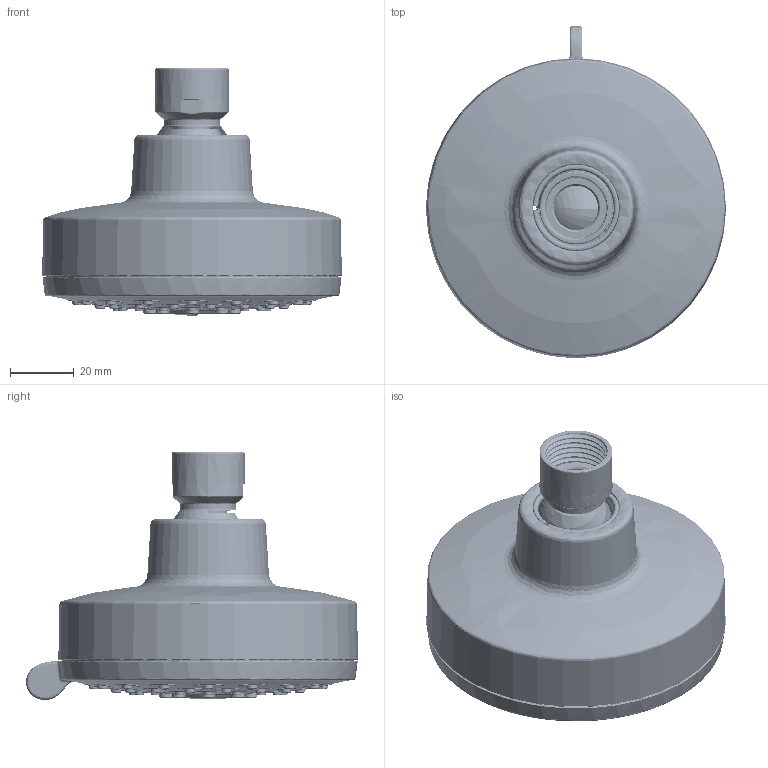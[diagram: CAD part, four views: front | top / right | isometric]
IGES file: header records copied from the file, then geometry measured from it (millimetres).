
Start section: SolidWorks IGES file using analytic representation for surfaces
Global section: file name: W:\mzhang7\TechLit Request\7124\20001\sku_20001series_igs.IGS; native system: SolidWorks 2023; preprocessor: SolidWorks 2023; author: mzhang7; date: 250708.163146; units: inch
Bounding box: 94.15 x 104.32 x 77.96 mm (x, y, z)
Volume: 92290.6 mm3; surface area: 94132.8 mm2
Topology: 6 solids, 6 shells, 3430 faces, 8592 edges, 4905 vertices
Faces by surface type: revolution 1644, bspline 1336, plane 450
